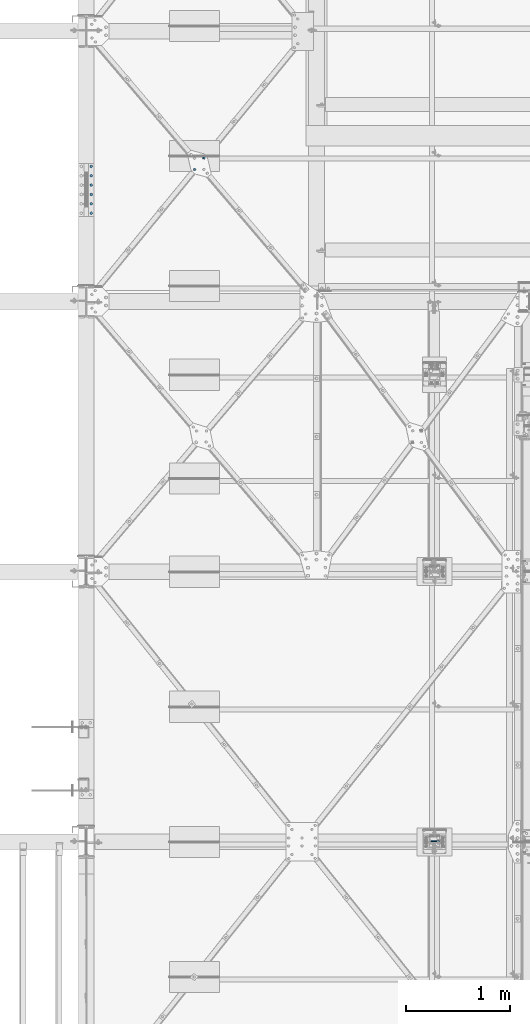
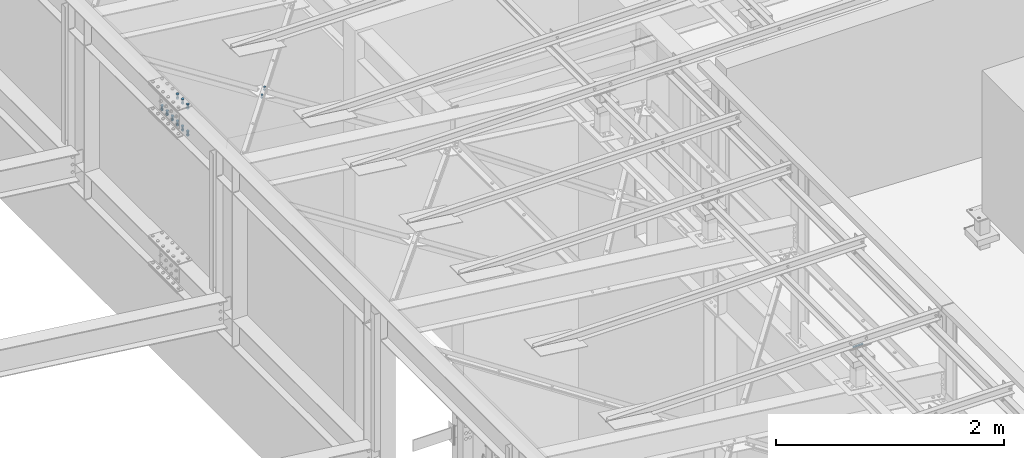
# One storey, part 377 of 3134: 5 mechanical fasteners, 4 elements without a shape of their own.
"""IFC2X3 building model written with IfcOpenShell, lengths in millimetres."""

from ifc_helpers import new_model, si_unit, frame, origin_with_axes, place, context, subcontext, project, spatial, faceted_brep, source, transform, mapped, material, type_object, element, aggregate, save


model = new_model("IFC2X3")

# Units and contexts
model_context = context("Model", 3, precision=1e-05, world=origin_with_axes())
body_context = subcontext(model_context, "Body", "Model", "MODEL_VIEW")
ifc_project = project(units=[si_unit("LENGTHUNIT", "METRE", prefix="MILLI"), si_unit("AREAUNIT", "SQUARE_METRE"), si_unit("VOLUMEUNIT", "CUBIC_METRE"), si_unit("MASSUNIT", "GRAM", prefix="KILO"), si_unit("TIMEUNIT", "SECOND"), si_unit("PLANEANGLEUNIT", "RADIAN"), si_unit("SOLIDANGLEUNIT", "STERADIAN"), si_unit("THERMODYNAMICTEMPERATUREUNIT", "DEGREE_CELSIUS"), si_unit("LUMINOUSINTENSITYUNIT", "LUMEN")], contexts=[model_context])

# Site, building, storey
site_placement = place(None, origin_with_axes())
site = spatial("IfcSite", under=ifc_project, at=site_placement, CompositionType="ELEMENT")
building_placement = place(site_placement, origin_with_axes())
building = spatial("IfcBuilding", under=site, at=building_placement, Name="Undefined", CompositionType="ELEMENT")
storey_placement = place(building_placement, origin_with_axes())
storey = spatial("IfcBuildingStorey", under=building, at=storey_placement, Name="Undefined", CompositionType="ELEMENT", Elevation=0.0)

# Assembly, mechanical fastener
assembly_1_placement = place(storey_placement, origin_with_axes())
assembly_1 = element("IfcElementAssembly", 1, at=assembly_1_placement, inside=storey, AssemblyPlace="NOTDEFINED", PredefinedType="RIGID_FRAME")
ifc_material = material(Name="8.8")
mechanical_fastener_type = type_object("IfcMechanicalFastenerType", Name="Bolt assembly")
shared_shape_1 = source(origin_with_axes(), body_context, "Body", "Brep", [
    faceted_brep([(9.0, -50.0, 0.0), (7.79422863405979, -50.0, 4.50000000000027), (4.49999999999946, -50.0, 7.79422863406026), (-9.3270238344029e-13, -50.0, 9.0), (-4.50000000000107, -50.0, 7.79422863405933), (-7.79422863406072, -50.0, 4.49999999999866), (-9.0, -50.0, -1.86540476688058e-12), (-7.79422863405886, -50.0, -4.50000000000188), (-4.49999999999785, -50.0, -7.79422863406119), (2.78811514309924e-12, -50.0, -9.0), (4.50000000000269, -50.0, -7.7942286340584), (7.79422863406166, -50.0, -4.49999999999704), (7.79422863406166, 50.1, -4.49999999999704), (4.50000000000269, 50.1, -7.7942286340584), (2.78811514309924e-12, 50.1, -9.0), (-4.49999999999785, 50.1, -7.79422863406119), (-7.79422863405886, 50.1, -4.50000000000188), (-9.0, 50.1, -1.86540476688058e-12), (-7.79422863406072, 50.1, 4.49999999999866), (-4.50000000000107, 50.1, 7.79422863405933), (-9.3270238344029e-13, 50.1, 9.0), (4.49999999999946, 50.1, 7.79422863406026), (7.79422863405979, 50.1, 4.50000000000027), (9.0, 50.1, 0.0)], [[[0, 1, 2, 3, 4, 5, 6, 7, 8, 9, 10, 11]], [[12, 13, 14, 15, 16, 17, 18, 19, 20, 21, 22, 23]], [[0, 23, 22, 1]], [[1, 22, 21, 2]], [[2, 21, 20, 3]], [[3, 20, 19, 4]], [[4, 19, 18, 5]], [[5, 18, 17, 6]], [[6, 17, 16, 7]], [[7, 16, 15, 8]], [[8, 15, 14, 9]], [[9, 14, 13, 10]], [[10, 13, 12, 11]], [[11, 12, 23, 0]]]),
])
mechanical_fastener_1_placement = place(assembly_1_placement, frame((70902.0, 22050.0, 5830.0), z_axis=(0.0, 1.0, 0.0), x_axis=(0.0, 0.0, 1.0)))
mechanical_fastener_1 = element("IfcMechanicalFastener", 2, at=mechanical_fastener_1_placement, type_object=mechanical_fastener_type, material=ifc_material, Name="Bolt assembly", NominalDiameter=16.0, NominalLength=100.0, context=body_context, shape_type="MappedRepresentation", body=[
    mapped(shared_shape_1, transform((0.0, 0.0, 0.0))),
])
aggregate(assembly_1, [mechanical_fastener_1])

assembly_2_placement = place(storey_placement, origin_with_axes())
assembly_2 = element("IfcElementAssembly", 3, at=assembly_2_placement, inside=storey, AssemblyPlace="NOTDEFINED", PredefinedType="RIGID_FRAME")
shared_shape_2 = source(origin_with_axes(), body_context, "Body", "Brep", [
    faceted_brep([(10.9696551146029, -17.0000762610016, 0.0), (5.48482755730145, -17.0000762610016, 9.5), (-5.48482755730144, -17.0000762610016, 9.5), (-10.9696551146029, -17.0000762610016, 1.34339530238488e-15), (-5.48482755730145, -17.0000762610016, -9.5), (5.48482755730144, -17.0000762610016, -9.50000000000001), (5.48482755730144, -9.00007626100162, -9.50000000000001), (-5.48482755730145, -9.00007626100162, -9.5), (-10.9696551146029, -9.00007626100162, 1.34339530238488e-15), (-5.48482755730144, -9.00007626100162, 9.5), (5.48482755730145, -9.00007626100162, 9.5), (10.9696551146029, -9.00007626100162, 0.0), (6.0, -9.00007626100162, 0.0), (5.19615242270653, -9.00007626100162, 3.00000000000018), (2.99999999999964, -9.00007626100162, 5.19615242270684), (-6.21801588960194e-13, -9.00007626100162, 6.0), (-3.00000000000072, -9.00007626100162, 5.19615242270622), (-5.19615242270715, -9.00007626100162, 2.9999999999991), (-6.0, -9.00007626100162, -1.24360317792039e-12), (-5.19615242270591, -9.00007626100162, -3.00000000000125), (-2.99999999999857, -9.00007626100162, -5.19615242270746), (1.85874342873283e-12, -9.00007626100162, -6.0), (3.00000000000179, -9.00007626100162, -5.1961524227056), (5.19615242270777, -9.00007626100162, -2.99999999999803), (5.19615242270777, 25.9999426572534, -2.99999999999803), (3.00000000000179, 25.9999426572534, -5.1961524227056), (1.85874342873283e-12, 25.9999426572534, -6.0), (-2.99999999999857, 25.9999426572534, -5.19615242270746), (-5.19615242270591, 25.9999426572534, -3.00000000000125), (-6.0, 25.9999426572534, -1.24360317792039e-12), (-5.19615242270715, 25.9999426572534, 2.9999999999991), (-3.00000000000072, 25.9999426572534, 5.19615242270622), (-6.21801588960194e-13, 25.9999426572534, 6.0), (2.99999999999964, 25.9999426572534, 5.19615242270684), (5.19615242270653, 25.9999426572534, 3.00000000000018), (6.0, 25.9999426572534, 0.0), (10.9696551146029, 9.00011133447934, 0.0), (5.48482755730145, 9.00011133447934, 9.5), (-5.48482755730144, 9.00011133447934, 9.5), (-10.9696551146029, 9.00011133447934, 1.34339530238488e-15), (-5.48482755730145, 9.00011133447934, -9.5), (5.48482755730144, 9.00011133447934, -9.50000000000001), (5.48482755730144, 19.0000762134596, -9.50000000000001), (-5.48482755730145, 19.0001113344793, -9.5), (-10.9696551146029, 19.0000762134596, 1.34339530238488e-15), (-5.48482755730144, 19.0000762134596, 9.5), (5.48482755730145, 19.0000762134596, 9.5), (10.9696551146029, 19.0000762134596, 0.0)], [[[0, 1, 2, 3, 4, 5]], [[6, 7, 8, 9, 10, 11]], [[0, 11, 10, 1]], [[1, 10, 9, 2]], [[2, 9, 8, 3]], [[3, 8, 7, 4]], [[4, 7, 6, 5]], [[5, 6, 11, 0]], [[12, 13, 14, 15, 16, 17, 18, 19, 20, 21, 22, 23]], [[24, 25, 26, 27, 28, 29, 30, 31, 32, 33, 34, 35]], [[12, 35, 34, 13]], [[13, 34, 33, 14]], [[14, 33, 32, 15]], [[15, 32, 31, 16]], [[16, 31, 30, 17]], [[17, 30, 29, 18]], [[18, 29, 28, 19]], [[19, 28, 27, 20]], [[20, 27, 26, 21]], [[21, 26, 25, 22]], [[22, 25, 24, 23]], [[23, 24, 35, 12]], [[36, 37, 38, 39, 40, 41]], [[42, 43, 44, 45, 46, 47]], [[36, 47, 46, 37]], [[37, 46, 45, 38]], [[38, 45, 44, 39]], [[39, 44, 43, 40]], [[40, 43, 42, 41]], [[41, 42, 47, 36]]]),
    faceted_brep([(7.0, 3.90007621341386, 0.0), (6.06217782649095, 3.90007621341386, 3.50000000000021), (3.49999999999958, 3.90007621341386, 6.06217782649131), (-7.25435187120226e-13, 3.90007621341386, 7.0), (-3.50000000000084, 3.90011133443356, 6.06217782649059), (-6.06217782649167, 3.90007621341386, 3.49999999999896), (-7.0, 3.90007621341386, -1.45087037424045e-12), (-6.06217782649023, 3.90007621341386, -3.50000000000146), (-3.49999999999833, 3.90007621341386, -6.06217782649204), (2.1685340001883e-12, 3.90011133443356, -7.0), (3.50000000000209, 3.90007621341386, -6.06217782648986), (6.0621778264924, 3.90011133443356, -3.4999999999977), (6.0621778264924, 9.00007621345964, -3.4999999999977), (3.50000000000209, 9.00007621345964, -6.06217782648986), (2.1685340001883e-12, 9.00011133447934, -7.0), (-3.49999999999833, 9.00011133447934, -6.06217782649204), (-6.06217782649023, 9.00011133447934, -3.50000000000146), (-7.0, 9.00011133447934, -1.45087037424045e-12), (-6.06217782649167, 9.00007621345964, 3.49999999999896), (-3.50000000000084, 9.00007621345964, 6.06217782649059), (-7.25435187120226e-13, 9.00007621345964, 7.0), (3.49999999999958, 9.00011133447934, 6.06217782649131), (6.06217782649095, 9.00007621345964, 3.50000000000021), (7.0, 9.00007621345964, 0.0), (7.0, -8.90007626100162, 0.0), (6.06217782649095, -8.90007626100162, 3.50000000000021), (3.49999999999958, -8.90007626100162, 6.06217782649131), (-7.25435187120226e-13, -8.90007626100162, 7.0), (-3.50000000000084, -8.90007626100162, 6.06217782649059), (-6.06217782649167, -8.90007626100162, 3.49999999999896), (-7.0, -8.90007626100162, -1.45087037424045e-12), (-6.06217782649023, -8.90007626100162, -3.50000000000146), (-3.49999999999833, -8.90007626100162, -6.06217782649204), (2.1685340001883e-12, -8.90007626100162, -7.0), (3.50000000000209, -8.90007626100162, -6.06217782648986), (6.0621778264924, -8.90007626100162, -3.4999999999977), (6.0621778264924, -3.90005734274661, -3.4999999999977), (3.50000000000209, -3.90005734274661, -6.06217782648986), (2.1685340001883e-12, -3.90005734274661, -7.0), (-3.49999999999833, -3.90005734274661, -6.06217782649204), (-6.06217782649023, -3.90005734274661, -3.50000000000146), (-7.0, -3.90005734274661, -1.45087037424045e-12), (-6.06217782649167, -3.90005734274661, 3.49999999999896), (-3.50000000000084, -3.90005734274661, 6.06217782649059), (-7.25435187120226e-13, -3.90005734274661, 7.0), (3.49999999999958, -3.90005734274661, 6.06217782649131), (6.06217782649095, -3.90005734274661, 3.50000000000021), (7.0, -3.90005734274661, 0.0), (7.0, -4.00000018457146, 0.0), (6.06217782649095, -4.00000018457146, 3.50000000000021), (3.49999999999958, -4.00000018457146, 6.06217782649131), (-7.25435187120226e-13, -4.00000018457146, 7.0), (-3.50000000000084, -4.00000018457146, 6.06217782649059), (-6.06217782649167, -4.00000018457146, 3.49999999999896), (-7.0, -4.00000018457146, -1.45087037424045e-12), (-6.06217782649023, -4.00000018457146, -3.50000000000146), (-3.49999999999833, -4.00000018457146, -6.06217782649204), (2.1685340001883e-12, -4.00000018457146, -7.0), (3.50000000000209, -4.00000018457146, -6.06217782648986), (6.0621778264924, -4.00000018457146, -3.4999999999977), (6.0621778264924, 4.00000000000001, -3.4999999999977), (3.50000000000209, 4.00000000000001, -6.06217782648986), (2.1685340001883e-12, 4.00000000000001, -7.0), (-3.49999999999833, 4.00000000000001, -6.06217782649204), (-6.06217782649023, 4.00000000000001, -3.50000000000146), (-7.0, 4.00000000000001, -1.45087037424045e-12), (-6.06217782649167, 4.00000000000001, 3.49999999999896), (-3.50000000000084, 4.00000000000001, 6.06217782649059), (-7.25435187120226e-13, 4.00000000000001, 7.0), (3.49999999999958, 4.00000000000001, 6.06217782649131), (6.06217782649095, 4.00000000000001, 3.50000000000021), (7.0, 4.00000000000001, 0.0)], [[[0, 1, 2, 3, 4, 5, 6, 7, 8, 9, 10, 11]], [[12, 13, 14, 15, 16, 17, 18, 19, 20, 21, 22, 23]], [[0, 23, 22, 1]], [[1, 22, 21, 2]], [[2, 21, 20, 3]], [[3, 20, 19, 4]], [[4, 19, 18, 5]], [[5, 18, 17, 6]], [[6, 17, 16, 7]], [[7, 16, 15, 8]], [[8, 15, 14, 9]], [[9, 14, 13, 10]], [[10, 13, 12, 11]], [[11, 12, 23, 0]], [[24, 25, 26, 27, 28, 29, 30, 31, 32, 33, 34, 35]], [[36, 37, 38, 39, 40, 41, 42, 43, 44, 45, 46, 47]], [[24, 47, 46, 25]], [[25, 46, 45, 26]], [[26, 45, 44, 27]], [[27, 44, 43, 28]], [[28, 43, 42, 29]], [[29, 42, 41, 30]], [[30, 41, 40, 31]], [[31, 40, 39, 32]], [[32, 39, 38, 33]], [[33, 38, 37, 34]], [[34, 37, 36, 35]], [[35, 36, 47, 24]], [[48, 49, 50, 51, 52, 53, 54, 55, 56, 57, 58, 59]], [[60, 61, 62, 63, 64, 65, 66, 67, 68, 69, 70, 71]], [[48, 71, 70, 49]], [[49, 70, 69, 50]], [[50, 69, 68, 51]], [[51, 68, 67, 52]], [[52, 67, 66, 53]], [[53, 66, 65, 54]], [[54, 65, 64, 55]], [[55, 64, 63, 56]], [[56, 63, 62, 57]], [[57, 62, 61, 58]], [[58, 61, 60, 59]], [[59, 60, 71, 48]]]),
])
mechanical_fastener_2_placement = place(assembly_2_placement, frame((68680.7420983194, 28628.6309477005, 5377.65273995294), z_axis=(0.765198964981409, -0.636973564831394, -0.0934624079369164), x_axis=(-0.632274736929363, -0.770885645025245, 0.0772268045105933)))
mechanical_fastener_2 = element("IfcMechanicalFastener", 4, at=mechanical_fastener_2_placement, type_object=mechanical_fastener_type, material=ifc_material, Name="Bolt assembly", NominalDiameter=12.0, NominalLength=35.0, context=body_context, shape_type="MappedRepresentation", body=[
    mapped(shared_shape_2, transform((0.0, 0.0, 0.0))),
    mapped(shared_shape_2, transform((140.0, 0.0, 0.0))),
])
aggregate(assembly_2, [mechanical_fastener_2])

assembly_3_placement = place(storey_placement, origin_with_axes())
assembly_3 = element("IfcElementAssembly", 5, at=assembly_3_placement, inside=storey, Name="300", AssemblyPlace="NOTDEFINED", PredefinedType="RIGID_FRAME")
shared_shape_3 = source(origin_with_axes(), body_context, "Body", "Brep", [
    faceted_brep([(13.856406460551, -29.1999998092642, 0.0), (6.92820323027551, -29.1999998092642, 12.0), (-6.92820323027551, -29.1999998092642, 12.0), (-13.856406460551, -29.1999998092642, 1.69692038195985e-15), (-6.92820323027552, -29.1999998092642, -12.0), (6.9282032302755, -29.1999998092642, -12.0), (6.9282032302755, -19.199990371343, -12.0), (-6.92820323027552, -19.199990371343, -12.0), (-13.856406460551, -19.199990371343, 1.69692038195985e-15), (-6.92820323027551, -19.199990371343, 12.0), (6.92820323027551, -19.199990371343, 12.0), (13.856406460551, -19.199990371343, 0.0), (8.0, -19.1999998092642, 0.0), (6.92820323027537, -19.1999998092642, 4.00000000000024), (3.99999999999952, -19.1999998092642, 6.92820323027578), (-8.29068785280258e-13, -19.1999998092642, 8.0), (-4.00000000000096, -19.1999998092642, 6.92820323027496), (-6.9282032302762, -19.1999998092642, 3.99999999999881), (-8.0, -19.1999998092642, -1.65813757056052e-12), (-6.92820323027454, -19.1999998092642, -4.00000000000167), (-3.99999999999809, -19.1999998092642, -6.92820323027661), (2.47832457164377e-12, -19.1999998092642, -8.0), (4.00000000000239, -19.1999998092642, -6.92820323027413), (6.92820323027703, -19.1999998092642, -3.99999999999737), (6.92820323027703, 30.8000001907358, -3.99999999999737), (4.00000000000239, 30.8000001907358, -6.92820323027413), (2.47832457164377e-12, 30.8000001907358, -8.0), (-3.99999999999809, 30.8000001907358, -6.92820323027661), (-6.92820323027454, 30.8000001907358, -4.00000000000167), (-8.0, 30.8000001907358, -1.65813757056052e-12), (-6.9282032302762, 30.8000001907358, 3.99999999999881), (-4.00000000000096, 30.8000001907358, 6.92820323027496), (-8.29068785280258e-13, 30.8000001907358, 8.0), (3.99999999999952, 30.8000001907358, 6.92820323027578), (6.92820323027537, 30.8000001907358, 4.00000000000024), (8.0, 30.8000001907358, 0.0), (13.856406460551, 9.99999995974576, 0.0), (6.92820323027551, 9.99999995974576, 12.0), (-6.92820323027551, 9.99999995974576, 12.0), (-13.856406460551, 9.99999995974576, 1.69692038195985e-15), (-6.92820323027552, 9.99999995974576, -12.0), (6.9282032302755, 9.99999995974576, -12.0), (6.9282032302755, 22.9999913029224, -12.0), (-6.92820323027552, 22.9999913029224, -12.0), (-13.856406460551, 22.9999913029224, 1.69692038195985e-15), (-6.92820323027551, 22.9999913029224, 12.0), (6.92820323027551, 22.9999913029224, 12.0), (13.856406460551, 22.9999913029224, 0.0)], [[[0, 1, 2, 3, 4, 5]], [[6, 7, 8, 9, 10, 11]], [[0, 11, 10, 1]], [[1, 10, 9, 2]], [[2, 9, 8, 3]], [[3, 8, 7, 4]], [[4, 7, 6, 5]], [[5, 6, 11, 0]], [[12, 13, 14, 15, 16, 17, 18, 19, 20, 21, 22, 23]], [[24, 25, 26, 27, 28, 29, 30, 31, 32, 33, 34, 35]], [[12, 35, 34, 13]], [[13, 34, 33, 14]], [[14, 33, 32, 15]], [[15, 32, 31, 16]], [[16, 31, 30, 17]], [[17, 30, 29, 18]], [[18, 29, 28, 19]], [[19, 28, 27, 20]], [[20, 27, 26, 21]], [[21, 26, 25, 22]], [[22, 25, 24, 23]], [[23, 24, 35, 12]], [[36, 37, 38, 39, 40, 41]], [[42, 43, 44, 45, 46, 47]], [[36, 47, 46, 37]], [[37, 46, 45, 38]], [[38, 45, 44, 39]], [[39, 44, 43, 40]], [[40, 43, 42, 41]], [[41, 42, 47, 36]]]),
    faceted_brep([(9.0, -19.0999998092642, 0.0), (7.79422863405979, -19.0999998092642, 4.50000000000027), (4.49999999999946, -19.0999998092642, 7.79422863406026), (-9.3270238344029e-13, -19.0999998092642, 9.0), (-4.50000000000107, -19.0999998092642, 7.79422863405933), (-7.79422863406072, -19.0999998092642, 4.49999999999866), (-9.0, -19.0999998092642, -1.86540476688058e-12), (-7.79422863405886, -19.0999998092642, -4.50000000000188), (-4.49999999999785, -19.0999998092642, -7.79422863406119), (2.78811514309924e-12, -19.0999998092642, -9.0), (4.50000000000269, -19.0999998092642, -7.7942286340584), (7.79422863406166, -19.0999998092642, -4.49999999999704), (7.79422863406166, -9.09999037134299, -4.49999999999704), (4.50000000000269, -9.09999037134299, -7.7942286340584), (2.78811514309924e-12, -9.09999037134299, -9.0), (-4.49999999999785, -9.09999037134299, -7.79422863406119), (-7.79422863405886, -9.09999037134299, -4.50000000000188), (-9.0, -9.09999037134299, -1.86540476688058e-12), (-7.79422863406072, -9.09999037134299, 4.49999999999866), (-4.50000000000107, -9.09999037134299, 7.79422863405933), (-9.3270238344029e-13, -9.09999037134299, 9.0), (4.49999999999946, -9.09999037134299, 7.79422863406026), (7.79422863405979, -9.09999037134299, 4.50000000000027), (9.0, -9.09999037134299, 0.0), (9.0, -9.20000008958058, 0.0), (7.79422863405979, -9.20000008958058, 4.50000000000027), (4.49999999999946, -9.20000008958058, 7.79422863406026), (-9.3270238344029e-13, -9.20000008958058, 9.0), (-4.50000000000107, -9.20000008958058, 7.79422863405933), (-7.79422863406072, -9.20000008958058, 4.49999999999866), (-9.0, -9.20000008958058, -1.86540476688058e-12), (-7.79422863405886, -9.20000008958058, -4.50000000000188), (-4.49999999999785, -9.20000008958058, -7.79422863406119), (2.78811514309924e-12, -9.20000008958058, -9.0), (4.50000000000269, -9.20000008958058, -7.7942286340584), (7.79422863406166, -9.20000008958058, -4.49999999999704), (7.79422863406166, -3.46568413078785e-07, -4.49999999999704), (4.50000000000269, -3.46568413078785e-07, -7.7942286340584), (2.78811514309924e-12, -3.46568413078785e-07, -9.0), (-4.49999999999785, -3.46568413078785e-07, -7.79422863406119), (-7.79422863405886, -3.46568413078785e-07, -4.50000000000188), (-9.0, -3.46568413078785e-07, -1.86540476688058e-12), (-7.79422863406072, -3.46568413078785e-07, 4.49999999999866), (-4.50000000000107, -3.46568413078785e-07, 7.79422863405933), (-9.3270238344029e-13, -3.46568413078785e-07, 9.0), (4.49999999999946, -3.46568413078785e-07, 7.79422863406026), (7.79422863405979, -3.46568413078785e-07, 4.50000000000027), (9.0, -3.46568413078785e-07, 0.0), (9.0, -0.1, 0.0), (7.79422863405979, -0.1, 4.50000000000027), (4.49999999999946, -0.1, 7.79422863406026), (-9.3270238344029e-13, -0.1, 9.0), (-4.50000000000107, -0.1, 7.79422863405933), (-7.79422863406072, -0.1, 4.49999999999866), (-9.0, -0.1, -1.86540476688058e-12), (-7.79422863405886, -0.1, -4.50000000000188), (-4.49999999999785, -0.1, -7.79422863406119), (2.78811514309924e-12, -0.1, -9.0), (4.50000000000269, -0.1, -7.7942286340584), (7.79422863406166, -0.1, -4.49999999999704), (7.79422863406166, 9.99999995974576, -4.49999999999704), (4.50000000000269, 9.99999995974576, -7.7942286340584), (2.78811514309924e-12, 9.99999995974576, -9.0), (-4.49999999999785, 9.99999995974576, -7.79422863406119), (-7.79422863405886, 9.99999995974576, -4.50000000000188), (-9.0, 9.99999995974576, -1.86540476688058e-12), (-7.79422863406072, 9.99999995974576, 4.49999999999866), (-4.50000000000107, 9.99999995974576, 7.79422863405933), (-9.3270238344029e-13, 9.99999995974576, 9.0), (4.49999999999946, 9.99999995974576, 7.79422863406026), (7.79422863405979, 9.99999995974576, 4.50000000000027), (9.0, 9.99999995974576, 0.0)], [[[0, 1, 2, 3, 4, 5, 6, 7, 8, 9, 10, 11]], [[12, 13, 14, 15, 16, 17, 18, 19, 20, 21, 22, 23]], [[0, 23, 22, 1]], [[1, 22, 21, 2]], [[2, 21, 20, 3]], [[3, 20, 19, 4]], [[4, 19, 18, 5]], [[5, 18, 17, 6]], [[6, 17, 16, 7]], [[7, 16, 15, 8]], [[8, 15, 14, 9]], [[9, 14, 13, 10]], [[10, 13, 12, 11]], [[11, 12, 23, 0]], [[24, 25, 26, 27, 28, 29, 30, 31, 32, 33, 34, 35]], [[36, 37, 38, 39, 40, 41, 42, 43, 44, 45, 46, 47]], [[24, 47, 46, 25]], [[25, 46, 45, 26]], [[26, 45, 44, 27]], [[27, 44, 43, 28]], [[28, 43, 42, 29]], [[29, 42, 41, 30]], [[30, 41, 40, 31]], [[31, 40, 39, 32]], [[32, 39, 38, 33]], [[33, 38, 37, 34]], [[34, 37, 36, 35]], [[35, 36, 47, 24]], [[48, 49, 50, 51, 52, 53, 54, 55, 56, 57, 58, 59]], [[60, 61, 62, 63, 64, 65, 66, 67, 68, 69, 70, 71]], [[48, 71, 70, 49]], [[49, 70, 69, 50]], [[50, 69, 68, 51]], [[51, 68, 67, 52]], [[52, 67, 66, 53]], [[53, 66, 65, 54]], [[54, 65, 64, 55]], [[55, 64, 63, 56]], [[56, 63, 62, 57]], [[57, 62, 61, 58]], [[58, 61, 60, 59]], [[59, 60, 71, 48]]]),
])
mechanical_fastener_3_placement = place(assembly_3_placement, frame((67597.5, 28099.9, 5880.80000019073), z_axis=(-1.0, 0.0, 0.0), x_axis=(0.0, 1.0, 0.0)))
mechanical_fastener_3 = element("IfcMechanicalFastener", 6, at=mechanical_fastener_3_placement, type_object=mechanical_fastener_type, material=ifc_material, Name="Bolt assembly", NominalDiameter=16.0, NominalLength=50.0, context=body_context, shape_type="MappedRepresentation", body=[
    mapped(shared_shape_3, transform((0.0, 0.0, 0.0))),
    mapped(shared_shape_3, transform((90.0, 0.0, 0.0))),
    mapped(shared_shape_3, transform((180.0, 0.0, 0.0))),
])

assembly_4_placement = place(storey_placement, origin_with_axes())
assembly_4 = element("IfcElementAssembly", 7, at=assembly_4_placement, inside=storey, Name="300", AssemblyPlace="NOTDEFINED", PredefinedType="RIGID_FRAME")
shared_shape_4 = source(origin_with_axes(), body_context, "Body", "Brep", [
    faceted_brep([(13.856406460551, -20.0, 0.0), (6.92820323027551, -20.0, 12.0), (-6.92820323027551, -20.0, 12.0), (-13.856406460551, -20.0, 1.69692038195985e-15), (-6.92820323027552, -20.0, -12.0), (6.9282032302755, -20.0, -12.0), (6.9282032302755, -10.0, -12.0), (-6.92820323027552, -10.0, -12.0), (-13.856406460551, -10.0, 1.69692038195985e-15), (-6.92820323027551, -10.0, 12.0), (6.92820323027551, -10.0, 12.0), (13.856406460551, -10.0, 0.0), (8.0, -10.0, 0.0), (6.92820323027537, -10.0, 4.00000000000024), (3.99999999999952, -10.0, 6.92820323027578), (-8.29068785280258e-13, -10.0, 8.0), (-4.00000000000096, -10.0, 6.92820323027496), (-6.9282032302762, -10.0, 3.99999999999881), (-8.0, -10.0, -1.65813757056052e-12), (-6.92820323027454, -10.0, -4.00000000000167), (-3.99999999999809, -10.0, -6.92820323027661), (2.47832457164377e-12, -10.0, -8.0), (4.00000000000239, -10.0, -6.92820323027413), (6.92820323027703, -10.0, -3.99999999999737), (6.92820323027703, 40.0, -3.99999999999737), (4.00000000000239, 40.0, -6.92820323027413), (2.47832457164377e-12, 40.0, -8.0), (-3.99999999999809, 40.0, -6.92820323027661), (-6.92820323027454, 40.0, -4.00000000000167), (-8.0, 40.0, -1.65813757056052e-12), (-6.9282032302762, 40.0, 3.99999999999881), (-4.00000000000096, 40.0, 6.92820323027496), (-8.29068785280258e-13, 40.0, 8.0), (3.99999999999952, 40.0, 6.92820323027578), (6.92820323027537, 40.0, 4.00000000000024), (8.0, 40.0, 0.0), (13.856406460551, 19.1999998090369, 0.0), (6.92820323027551, 19.1999998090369, 12.0), (-6.92820323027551, 19.1999998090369, 12.0), (-13.856406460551, 19.1999998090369, 1.69692038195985e-15), (-6.92820323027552, 19.1999998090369, -12.0), (6.9282032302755, 19.1999998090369, -12.0), (6.9282032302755, 32.1999998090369, -12.0), (-6.92820323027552, 32.1999998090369, -12.0), (-13.856406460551, 32.1999998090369, 1.69692038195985e-15), (-6.92820323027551, 32.1999998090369, 12.0), (6.92820323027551, 32.1999998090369, 12.0), (13.856406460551, 32.1999998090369, 0.0)], [[[0, 1, 2, 3, 4, 5]], [[6, 7, 8, 9, 10, 11]], [[0, 11, 10, 1]], [[1, 10, 9, 2]], [[2, 9, 8, 3]], [[3, 8, 7, 4]], [[4, 7, 6, 5]], [[5, 6, 11, 0]], [[12, 13, 14, 15, 16, 17, 18, 19, 20, 21, 22, 23]], [[24, 25, 26, 27, 28, 29, 30, 31, 32, 33, 34, 35]], [[12, 35, 34, 13]], [[13, 34, 33, 14]], [[14, 33, 32, 15]], [[15, 32, 31, 16]], [[16, 31, 30, 17]], [[17, 30, 29, 18]], [[18, 29, 28, 19]], [[19, 28, 27, 20]], [[20, 27, 26, 21]], [[21, 26, 25, 22]], [[22, 25, 24, 23]], [[23, 24, 35, 12]], [[36, 37, 38, 39, 40, 41]], [[42, 43, 44, 45, 46, 47]], [[36, 47, 46, 37]], [[37, 46, 45, 38]], [[38, 45, 44, 39]], [[39, 44, 43, 40]], [[40, 43, 42, 41]], [[41, 42, 47, 36]]]),
    faceted_brep([(9.0, 9.09999980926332, 0.0), (7.79422863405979, 9.09999980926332, 4.50000000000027), (4.49999999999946, 9.09999980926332, 7.79422863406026), (-9.3270238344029e-13, 9.09999980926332, 9.0), (-4.50000000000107, 9.09999980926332, 7.79422863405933), (-7.79422863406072, 9.09999980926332, 4.49999999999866), (-9.0, 9.09999980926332, -1.86540476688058e-12), (-7.79422863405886, 9.09999980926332, -4.50000000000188), (-4.49999999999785, 9.09999980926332, -7.79422863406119), (2.78811514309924e-12, 9.09999980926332, -9.0), (4.50000000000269, 9.09999980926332, -7.7942286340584), (7.79422863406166, 9.09999980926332, -4.49999999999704), (7.79422863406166, 19.1999998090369, -4.49999999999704), (4.50000000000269, 19.1999998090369, -7.7942286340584), (2.78811514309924e-12, 19.1999998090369, -9.0), (-4.49999999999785, 19.1999998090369, -7.79422863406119), (-7.79422863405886, 19.1999998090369, -4.50000000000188), (-9.0, 19.1999998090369, -1.86540476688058e-12), (-7.79422863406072, 19.1999998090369, 4.49999999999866), (-4.50000000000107, 19.1999998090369, 7.79422863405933), (-9.3270238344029e-13, 19.1999998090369, 9.0), (4.49999999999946, 19.1999998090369, 7.79422863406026), (7.79422863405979, 19.1999998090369, 4.50000000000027), (9.0, 19.1999998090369, 0.0), (9.0, -3.46568413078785e-07, 0.0), (7.79422863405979, -3.46568413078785e-07, 4.50000000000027), (4.49999999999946, -3.46568413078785e-07, 7.79422863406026), (-9.3270238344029e-13, -3.46568413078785e-07, 9.0), (-4.50000000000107, -3.46568413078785e-07, 7.79422863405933), (-7.79422863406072, -3.46568413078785e-07, 4.49999999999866), (-9.0, -3.46568413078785e-07, -1.86540476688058e-12), (-7.79422863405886, -3.46568413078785e-07, -4.50000000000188), (-4.49999999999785, -3.46568413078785e-07, -7.79422863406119), (2.78811514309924e-12, -3.46568413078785e-07, -9.0), (4.50000000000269, -3.46568413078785e-07, -7.7942286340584), (7.79422863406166, -3.46568413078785e-07, -4.49999999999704), (7.79422863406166, 9.19999980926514, -4.49999999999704), (4.50000000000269, 9.19999980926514, -7.7942286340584), (2.78811514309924e-12, 9.19999980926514, -9.0), (-4.49999999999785, 9.19999980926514, -7.79422863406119), (-7.79422863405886, 9.19999980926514, -4.50000000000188), (-9.0, 9.19999980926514, -1.86540476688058e-12), (-7.79422863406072, 9.19999980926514, 4.49999999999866), (-4.50000000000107, 9.19999980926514, 7.79422863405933), (-9.3270238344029e-13, 9.19999980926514, 9.0), (4.49999999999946, 9.19999980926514, 7.79422863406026), (7.79422863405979, 9.19999980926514, 4.50000000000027), (9.0, 9.19999980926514, 0.0), (9.0, -9.89999997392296, 0.0), (7.79422863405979, -9.89999997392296, 4.50000000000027), (4.49999999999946, -9.89999997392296, 7.79422863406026), (-9.3270238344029e-13, -9.89999997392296, 9.0), (-4.50000000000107, -9.89999997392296, 7.79422863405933), (-7.79422863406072, -9.89999997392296, 4.49999999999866), (-9.0, -9.89999997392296, -1.86540476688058e-12), (-7.79422863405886, -9.89999997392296, -4.50000000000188), (-4.49999999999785, -9.89999997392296, -7.79422863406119), (2.78811514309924e-12, -9.89999997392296, -9.0), (4.50000000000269, -9.89999997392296, -7.7942286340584), (7.79422863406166, -9.89999997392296, -4.49999999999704), (7.79422863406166, 0.100000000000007, -4.49999999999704), (4.50000000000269, 0.100000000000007, -7.7942286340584), (2.78811514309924e-12, 0.100000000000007, -9.0), (-4.49999999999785, 0.100000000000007, -7.79422863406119), (-7.79422863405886, 0.100000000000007, -4.50000000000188), (-9.0, 0.100000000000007, -1.86540476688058e-12), (-7.79422863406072, 0.100000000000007, 4.49999999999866), (-4.50000000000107, 0.100000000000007, 7.79422863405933), (-9.3270238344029e-13, 0.100000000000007, 9.0), (4.49999999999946, 0.100000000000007, 7.79422863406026), (7.79422863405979, 0.100000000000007, 4.50000000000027), (9.0, 0.100000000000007, 0.0)], [[[0, 1, 2, 3, 4, 5, 6, 7, 8, 9, 10, 11]], [[12, 13, 14, 15, 16, 17, 18, 19, 20, 21, 22, 23]], [[0, 23, 22, 1]], [[1, 22, 21, 2]], [[2, 21, 20, 3]], [[3, 20, 19, 4]], [[4, 19, 18, 5]], [[5, 18, 17, 6]], [[6, 17, 16, 7]], [[7, 16, 15, 8]], [[8, 15, 14, 9]], [[9, 14, 13, 10]], [[10, 13, 12, 11]], [[11, 12, 23, 0]], [[24, 25, 26, 27, 28, 29, 30, 31, 32, 33, 34, 35]], [[36, 37, 38, 39, 40, 41, 42, 43, 44, 45, 46, 47]], [[24, 47, 46, 25]], [[25, 46, 45, 26]], [[26, 45, 44, 27]], [[27, 44, 43, 28]], [[28, 43, 42, 29]], [[29, 42, 41, 30]], [[30, 41, 40, 31]], [[31, 40, 39, 32]], [[32, 39, 38, 33]], [[33, 38, 37, 34]], [[34, 37, 36, 35]], [[35, 36, 47, 24]], [[48, 49, 50, 51, 52, 53, 54, 55, 56, 57, 58, 59]], [[60, 61, 62, 63, 64, 65, 66, 67, 68, 69, 70, 71]], [[48, 71, 70, 49]], [[49, 70, 69, 50]], [[50, 69, 68, 51]], [[51, 68, 67, 52]], [[52, 67, 66, 53]], [[53, 66, 65, 54]], [[54, 65, 64, 55]], [[55, 64, 63, 56]], [[56, 63, 62, 57]], [[57, 62, 61, 58]], [[58, 61, 60, 59]], [[59, 60, 71, 48]]]),
])
mechanical_fastener_4_placement = place(assembly_4_placement, frame((67597.4999999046, 28369.9, 5602.19999980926), z_axis=(-1.0, 0.0, 0.0), x_axis=(0.0, 1.0, 0.0)))
mechanical_fastener_4 = element("IfcMechanicalFastener", 8, at=mechanical_fastener_4_placement, type_object=mechanical_fastener_type, material=ifc_material, Name="Bolt assembly", NominalDiameter=16.0, NominalLength=50.0, context=body_context, shape_type="MappedRepresentation", body=[
    mapped(shared_shape_4, transform((0.0, 0.0, 0.0))),
    mapped(shared_shape_4, transform((90.0, 0.0, 0.0))),
    mapped(shared_shape_4, transform((180.0, 0.0, 0.0))),
])
aggregate(assembly_4, [mechanical_fastener_4])

# Mechanical fastener
mechanical_fastener_5_placement = place(assembly_3_placement, frame((67597.4999999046, 28099.9, 5602.19999980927), z_axis=(-1.0, 0.0, 0.0), x_axis=(0.0, 1.0, 0.0)))
mechanical_fastener_5 = element("IfcMechanicalFastener", 9, at=mechanical_fastener_5_placement, type_object=mechanical_fastener_type, material=ifc_material, Name="Bolt assembly", NominalDiameter=16.0, NominalLength=50.0, context=body_context, shape_type="MappedRepresentation", body=[
    mapped(shared_shape_4, transform((0.0, 0.0, 0.0))),
    mapped(shared_shape_4, transform((90.0, 0.0, 0.0))),
    mapped(shared_shape_4, transform((180.0, 0.0, 0.0))),
])

aggregate(assembly_3, [mechanical_fastener_5, mechanical_fastener_3])

save(model, "model.ifc")
